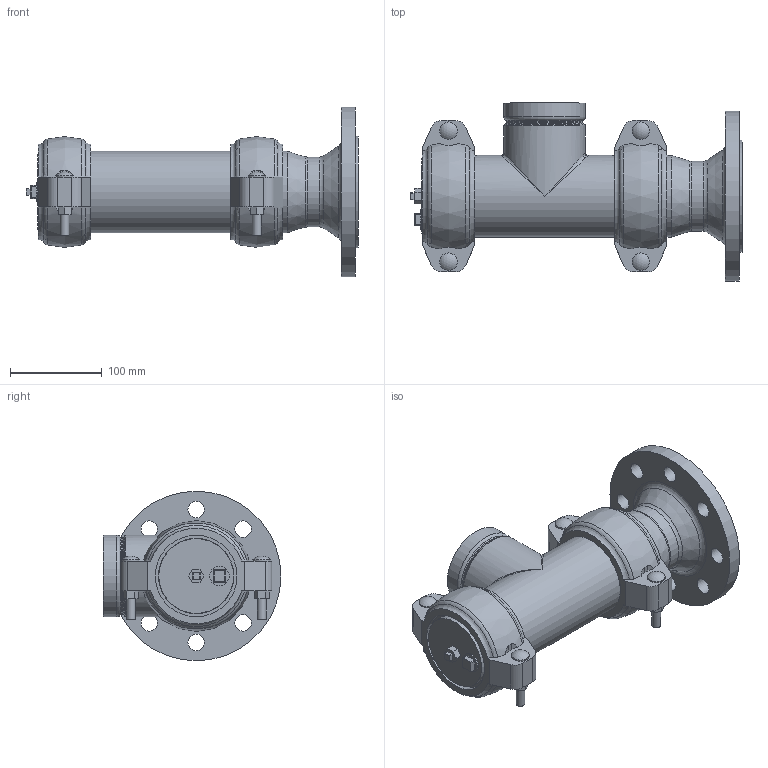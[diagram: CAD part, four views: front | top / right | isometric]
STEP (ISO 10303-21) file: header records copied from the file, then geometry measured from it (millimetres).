
FILE_DESCRIPTION(/* description */ ('VIC STRENGTHIN SUCTION DIFFUSER SERIES E431','CAx-IF Rec.Pracs.---Representation and Presentation of Product Manufacturing Information (PMI)---4.0---2014-10-13'),/* implementation_level */ '2;1');
FILE_NAME(/* name */ 'C:\Users\Vjadhav\AppData\Roaming\Autodesk\ApplicationPlugins\Back Up\Victaulic_SS-StrengThin 100_Suction Diffuser_PN16_Series E431 (ST1xFLG)\Victaulic_SS-StrengThin 100_Suction Diffuser_PN16_03.0x02.5 (76.1) (80x65).stp',/* time_stamp */ '2020-07-07T13:02:53+06:00',/* author */ ('VJadhav'),/* organization */ ('Victaulic'),/* preprocessor_version */ 'ST-DEVELOPER v17.2',/* originating_system */ 'Autodesk Inventor 2019',/* authorisation */ '');
FILE_SCHEMA (('AP242_MANAGED_MODEL_BASED_3D_ENGINEERING_MIM_LF { 1 0 10303 442 1 1 4 }'));
Length unit declared in the file: inch
Products named in the file (5): E431-03.0x02.5 (76.1); E492-03.0; E431-03.0; E497-03.0; E431-03.0_1
Assembly tree (5 placements, depth 2):
  E431-03.0x02.5 (76.1)
    E492-03.0
    E497-03.0  x2
    E431-03.0
    E431-03.0_1
Bounding box: 361.95 x 194.06 x 184.91 mm (x, y, z)
Volume: 1425769.1 mm3; surface area: 388668.5 mm2
Topology: 5 solids, 5 shells, 312 faces, 885 edges, 596 vertices
Faces by surface type: plane 115, cylinder 108, torus 59, cone 12, sphere 12, bspline 6
Full cylindrical faces by diameter (mm): 9.525 x8, 18.034 x8, 19.05 x4, 21.336 x1, 61.976 x1, 68.58 x1, 70.358 x1, 76.2 x3, 79.985 x3, 81.788 x1, 83.185 x3, 85.7 x5, 88.9 x11, 121.92 x1, 184.912 x1
Entity records: 8733 total; most frequent: CARTESIAN_POINT 1825, DIRECTION 1503, ORIENTED_EDGE 1324, EDGE_CURVE 662, AXIS2_PLACEMENT_3D 638, VERTEX_POINT 450, CIRCLE 388, EDGE_LOOP 278
